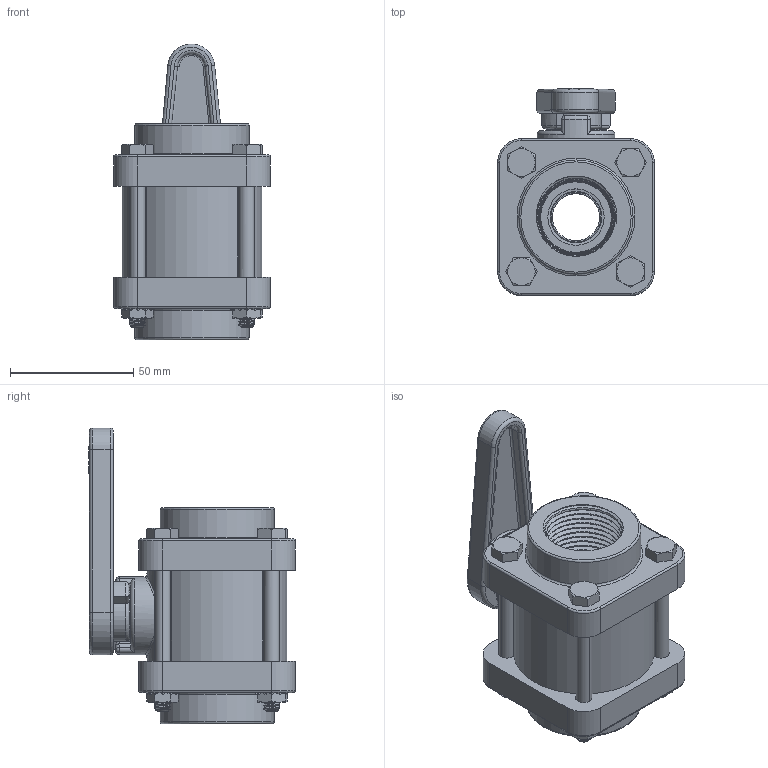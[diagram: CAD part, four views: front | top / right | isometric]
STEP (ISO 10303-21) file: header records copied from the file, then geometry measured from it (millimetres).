
FILE_DESCRIPTION(/* description */ ('Alibre Inc.'),/* implementation_level */ '2;1');
FILE_NAME(/* name */ 'export0',/* time_stamp */ '2017-04-07T16:28:59-04:00',/* author */ (''),/* organization */ (''),/* preprocessor_version */ 'ST-DEVELOPER v14',/* originating_system */ 'Alibre',/* authorisation */ '');
FILE_SCHEMA (('CONFIG_CONTROL_DESIGN'));
Products named in the file (13): ID_1; ID_2; ID_3; ID_4; ID_5; ID_6; ID_7; ID_8; ID_9; ID_10
Bounding box: 63.5 x 83.84 x 119.86 mm (x, y, z)
Volume: 212716.7 mm3; surface area: 83254.9 mm2
Topology: 23 solids, 23 shells, 1312 faces, 3413 edges, 2175 vertices
Faces by surface type: cylinder 424, plane 346, bspline 300, cone 183, torus 43, sphere 16
Full cylindrical faces by diameter (mm): 3.302 x1, 4.826 x1, 6.604 x8, 8.179 x1, 9.144 x1, 12.751 x1, 12.827 x1, 12.954 x1, 17.272 x2, 19.05 x1, 20.447 x1, 20.574 x1, 20.828 x2, 22.86 x2, 31.496 x1, 40.894 x2, 41.402 x1, 46.228 x2, 47.498 x4
Entity records: 53726 total; most frequent: CARTESIAN_POINT 37895, ORIENTED_EDGE 3332, DIRECTION 2224, EDGE_CURVE 1666, VERTEX_POINT 1089, AXIS2_PLACEMENT_3D 875, FACE_BOUND 753, EDGE_LOOP 752
